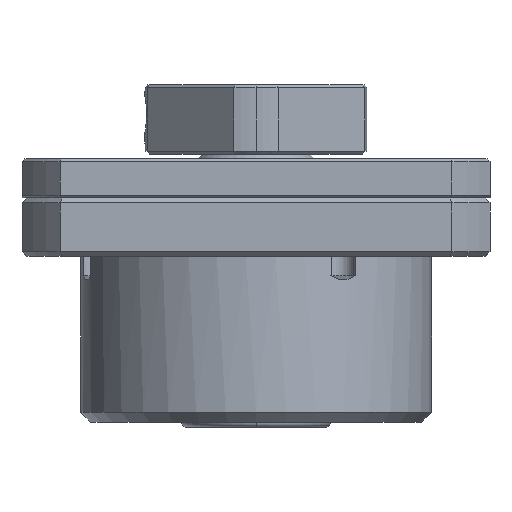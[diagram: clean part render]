
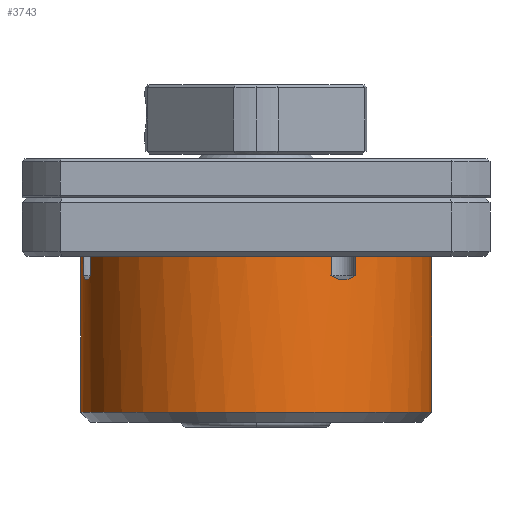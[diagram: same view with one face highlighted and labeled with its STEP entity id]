
A CAD part, front view. The second image highlights one B-rep face of the part: STEP entity #3743.
In plain terms, the highlighted cylindrical face has radius 18 mm (diameter 36 mm), a partial arc.
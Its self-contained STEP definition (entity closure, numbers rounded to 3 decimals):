
#5 = VECTOR ( 'NONE', #1590, 1000. ) ;
#28 = CARTESIAN_POINT ( 'NONE',  ( 10.17, -14.852, -8. ) ) ;
#40 = VECTOR ( 'NONE', #6869, 1000. ) ;
#152 = CARTESIAN_POINT ( 'NONE',  ( 9.989, -14.976, -8.103 ) ) ;
#181 = CARTESIAN_POINT ( 'NONE',  ( 9.803, -15.098, -8.2 ) ) ;
#211 = CARTESIAN_POINT ( 'NONE',  ( 9.512, -15.282, -8.314 ) ) ;
#238 = CARTESIAN_POINT ( 'NONE',  ( 9.414, -15.343, -8.346 ) ) ;
#298 = CARTESIAN_POINT ( 'NONE',  ( 9.21, -15.466, -8.392 ) ) ;
#309 = CARTESIAN_POINT ( 'NONE',  ( -17.653, -3.527, -8.103 ) ) ;
#435 = AXIS2_PLACEMENT_3D ( 'NONE', #1343, #1389, #3284 ) ;
#483 = CARTESIAN_POINT ( 'NONE',  ( 9.105, -15.528, -8.406 ) ) ;
#511 = CARTESIAN_POINT ( 'NONE',  ( 8.791, -15.709, -8.406 ) ) ;
#535 = CARTESIAN_POINT ( 'NONE',  ( 8.581, -15.825, -8.352 ) ) ;
#540 = CARTESIAN_POINT ( 'NONE',  ( 8.174, -16.039, -8.2 ) ) ;
#600 = CARTESIAN_POINT ( 'NONE',  ( 7.975, -16.138, -8.103 ) ) ;
#623 = CARTESIAN_POINT ( 'NONE',  ( 7.777, -16.233, -8. ) ) ;
#730 = CIRCLE ( 'NONE', #4317, 18. ) ;
#1118 = CARTESIAN_POINT ( 'NONE',  ( -18., 0., 29.63 ) ) ;
#1154 = VERTEX_POINT ( 'NONE', #5432 ) ;
#1183 = CARTESIAN_POINT ( 'NONE',  ( 0., 0., -6. ) ) ;
#1207 = ORIENTED_EDGE ( 'NONE', *, *, #5169, .F. ) ;
#1301 = ORIENTED_EDGE ( 'NONE', *, *, #7296, .F. ) ;
#1339 = B_SPLINE_CURVE_WITH_KNOTS ( 'NONE', 3,
 ( #623, #600, #540, #535, #511, #483, #298, #238, #211, #181, #152, #28 ),
 .UNSPECIFIED., .F., .F.,
 ( 4, 2, 2, 2, 2, 4 ),
 ( 0., 0.001, 0.001, 0.002, 0.002, 0.003 ),
 .UNSPECIFIED. ) ;
#1343 = CARTESIAN_POINT ( 'NONE',  ( 0., 0., 29.63 ) ) ;
#1389 = DIRECTION ( 'NONE',  ( 0., 0., 1. ) ) ;
#1434 = DIRECTION ( 'NONE',  ( 1., 0., 0. ) ) ;
#1445 = CARTESIAN_POINT ( 'NONE',  ( -17.693, -3.31, -4.287 ) ) ;
#1465 = DIRECTION ( 'NONE',  ( 0., 0., 1. ) ) ;
#1474 = AXIS2_PLACEMENT_3D ( 'NONE', #4685, #4598, #4568 ) ;
#1527 = CARTESIAN_POINT ( 'NONE',  ( 0., 0., -6. ) ) ;
#1590 = DIRECTION ( 'NONE',  ( 0., 0., 1. ) ) ;
#1601 = DIRECTION ( 'NONE',  ( 0., 0., -1. ) ) ;
#1675 = CARTESIAN_POINT ( 'NONE',  ( 7.777, -16.233, -4.287 ) ) ;
#1873 = VERTEX_POINT ( 'NONE', #6302 ) ;
#2232 = VECTOR ( 'NONE', #2502, 1000. ) ;
#2335 = VECTOR ( 'NONE', #2962, 1000. ) ;
#2397 = VECTOR ( 'NONE', #6064, 1000. ) ;
#2414 = VERTEX_POINT ( 'NONE', #7685 ) ;
#2423 = VERTEX_POINT ( 'NONE', #7103 ) ;
#2448 = CIRCLE ( 'NONE', #3060, 18. ) ;
#2502 = DIRECTION ( 'NONE',  ( 0., 0., -1. ) ) ;
#2628 = LINE ( 'NONE', #1675, #2232 ) ;
#2663 = VERTEX_POINT ( 'NONE', #4264 ) ;
#2680 = CARTESIAN_POINT ( 'NONE',  ( -17.121, -5.561, -8.2 ) ) ;
#2780 = EDGE_CURVE ( 'NONE', #4662, #4494, #730, .T. ) ;
#2962 = DIRECTION ( 'NONE',  ( 0., 0., 1. ) ) ;
#3018 = CARTESIAN_POINT ( 'NONE',  ( -16.978, -5.98, -6. ) ) ;
#3042 = EDGE_CURVE ( 'NONE', #2414, #6838, #2448, .T. ) ;
#3057 = AXIS2_PLACEMENT_3D ( 'NONE', #7214, #7013, #7007 ) ;
#3060 = AXIS2_PLACEMENT_3D ( 'NONE', #1527, #1465, #1434 ) ;
#3141 = VERTEX_POINT ( 'NONE', #7024 ) ;
#3284 = DIRECTION ( 'NONE',  ( 1., 0., 0. ) ) ;
#3469 = EDGE_CURVE ( 'NONE', #1873, #1154, #5532, .T. ) ;
#3579 = EDGE_CURVE ( 'NONE', #5296, #2414, #4980, .T. ) ;
#3663 = CARTESIAN_POINT ( 'NONE',  ( 18., 0., 29.63 ) ) ;
#3689 = ORIENTED_EDGE ( 'NONE', *, *, #3579, .F. ) ;
#3720 = VECTOR ( 'NONE', #1601, 1000. ) ;
#3743 = ADVANCED_FACE ( 'NONE', ( #5623 ), #3831, .T. ) ;
#3806 = CARTESIAN_POINT ( 'NONE',  ( -17.322, -4.893, -8.392 ) ) ;
#3831 = CYLINDRICAL_SURFACE ( 'NONE', #435, 18. ) ;
#3956 = CARTESIAN_POINT ( 'NONE',  ( 18., 0., -6. ) ) ;
#4024 = LINE ( 'NONE', #3663, #2335 ) ;
#4264 = CARTESIAN_POINT ( 'NONE',  ( 7.777, -16.233, -8. ) ) ;
#4305 = EDGE_CURVE ( 'NONE', #6795, #6838, #4024, .T. ) ;
#4317 = AXIS2_PLACEMENT_3D ( 'NONE', #1183, #7762, #7739 ) ;
#4494 = VERTEX_POINT ( 'NONE', #5650 ) ;
#4568 = DIRECTION ( 'NONE',  ( 1., 0., 0. ) ) ;
#4598 = DIRECTION ( 'NONE',  ( 0., 0., 1. ) ) ;
#4656 = ORIENTED_EDGE ( 'NONE', *, *, #6334, .F. ) ;
#4662 = VERTEX_POINT ( 'NONE', #3018 ) ;
#4685 = CARTESIAN_POINT ( 'NONE',  ( 0., 0., -6. ) ) ;
#4779 = EDGE_CURVE ( 'NONE', #2663, #5296, #1339, .T. ) ;
#4932 = ORIENTED_EDGE ( 'NONE', *, *, #4779, .F. ) ;
#4959 = EDGE_CURVE ( 'NONE', #2423, #6795, #6628, .T. ) ;
#4970 = EDGE_CURVE ( 'NONE', #5607, #3141, #6209, .T. ) ;
#4979 = CARTESIAN_POINT ( 'NONE',  ( -17.693, -3.31, -8. ) ) ;
#4980 = LINE ( 'NONE', #6925, #40 ) ;
#5169 = EDGE_CURVE ( 'NONE', #4494, #2663, #2628, .T. ) ;
#5177 = EDGE_CURVE ( 'NONE', #1154, #5607, #6903, .T. ) ;
#5296 = VERTEX_POINT ( 'NONE', #7644 ) ;
#5326 = CARTESIAN_POINT ( 'NONE',  ( -16.978, -5.98, -4.287 ) ) ;
#5432 = CARTESIAN_POINT ( 'NONE',  ( -17.693, -3.31, -6. ) ) ;
#5478 = ORIENTED_EDGE ( 'NONE', *, *, #3042, .F. ) ;
#5532 = CIRCLE ( 'NONE', #1474, 18. ) ;
#5607 = VERTEX_POINT ( 'NONE', #4979 ) ;
#5623 = FACE_OUTER_BOUND ( 'NONE', #7355, .T. ) ;
#5650 = CARTESIAN_POINT ( 'NONE',  ( 7.777, -16.233, -6. ) ) ;
#5865 = ORIENTED_EDGE ( 'NONE', *, *, #4970, .F. ) ;
#6064 = DIRECTION ( 'NONE',  ( 0., 0., 1. ) ) ;
#6195 = ORIENTED_EDGE ( 'NONE', *, *, #3469, .F. ) ;
#6209 = B_SPLINE_CURVE_WITH_KNOTS ( 'NONE', 3,
 ( #6934, #309, #6576, #6764, #6785, #6814, #3806, #6642, #6533, #2680, #6624, #6405 ),
 .UNSPECIFIED., .F., .F.,
 ( 4, 2, 2, 2, 2, 4 ),
 ( 0., 0.001, 0.001, 0.002, 0.002, 0.003 ),
 .UNSPECIFIED. ) ;
#6274 = ORIENTED_EDGE ( 'NONE', *, *, #5177, .F. ) ;
#6302 = CARTESIAN_POINT ( 'NONE',  ( -18., 0., -6. ) ) ;
#6334 = EDGE_CURVE ( 'NONE', #3141, #4662, #6702, .T. ) ;
#6405 = CARTESIAN_POINT ( 'NONE',  ( -16.978, -5.98, -8. ) ) ;
#6533 = CARTESIAN_POINT ( 'NONE',  ( -17.223, -5.233, -8.314 ) ) ;
#6576 = CARTESIAN_POINT ( 'NONE',  ( -17.608, -3.744, -8.2 ) ) ;
#6597 = ORIENTED_EDGE ( 'NONE', *, *, #2780, .F. ) ;
#6624 = CARTESIAN_POINT ( 'NONE',  ( -17.051, -5.772, -8.103 ) ) ;
#6628 = CIRCLE ( 'NONE', #3057, 18. ) ;
#6642 = CARTESIAN_POINT ( 'NONE',  ( -17.256, -5.122, -8.346 ) ) ;
#6702 = LINE ( 'NONE', #5326, #5 ) ;
#6764 = CARTESIAN_POINT ( 'NONE',  ( -17.506, -4.193, -8.352 ) ) ;
#6785 = CARTESIAN_POINT ( 'NONE',  ( -17.449, -4.426, -8.406 ) ) ;
#6795 = VERTEX_POINT ( 'NONE', #6940 ) ;
#6814 = CARTESIAN_POINT ( 'NONE',  ( -17.355, -4.775, -8.406 ) ) ;
#6838 = VERTEX_POINT ( 'NONE', #3956 ) ;
#6869 = DIRECTION ( 'NONE',  ( 0., 0., 1. ) ) ;
#6903 = LINE ( 'NONE', #1445, #3720 ) ;
#6925 = CARTESIAN_POINT ( 'NONE',  ( 10.17, -14.852, -4.287 ) ) ;
#6934 = CARTESIAN_POINT ( 'NONE',  ( -17.693, -3.31, -8. ) ) ;
#6940 = CARTESIAN_POINT ( 'NONE',  ( 18., 0., -22. ) ) ;
#7007 = DIRECTION ( 'NONE',  ( -1., 0., 0. ) ) ;
#7013 = DIRECTION ( 'NONE',  ( 0., 0., 1. ) ) ;
#7024 = CARTESIAN_POINT ( 'NONE',  ( -16.978, -5.98, -8. ) ) ;
#7103 = CARTESIAN_POINT ( 'NONE',  ( -18., 0., -22. ) ) ;
#7214 = CARTESIAN_POINT ( 'NONE',  ( 0., 0., -22. ) ) ;
#7233 = ORIENTED_EDGE ( 'NONE', *, *, #4305, .T. ) ;
#7236 = LINE ( 'NONE', #1118, #2397 ) ;
#7296 = EDGE_CURVE ( 'NONE', #2423, #1873, #7236, .T. ) ;
#7355 = EDGE_LOOP ( 'NONE', ( #1301, #7611, #7233, #5478, #3689, #4932, #1207, #6597, #4656, #5865, #6274, #6195 ) ) ;
#7611 = ORIENTED_EDGE ( 'NONE', *, *, #4959, .T. ) ;
#7644 = CARTESIAN_POINT ( 'NONE',  ( 10.17, -14.852, -8. ) ) ;
#7685 = CARTESIAN_POINT ( 'NONE',  ( 10.17, -14.852, -6. ) ) ;
#7739 = DIRECTION ( 'NONE',  ( 1., 0., 0. ) ) ;
#7762 = DIRECTION ( 'NONE',  ( 0., 0., 1. ) ) ;
